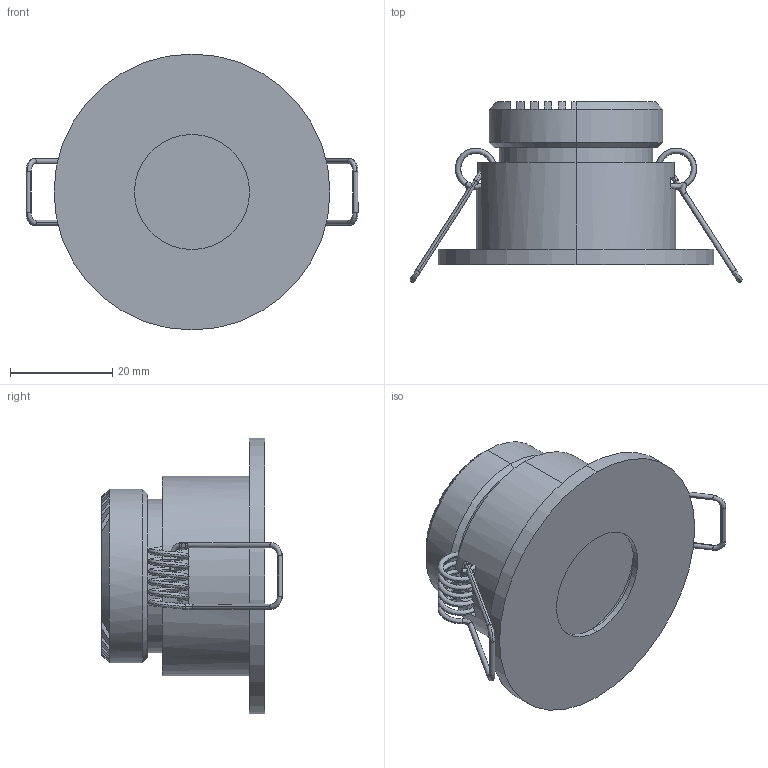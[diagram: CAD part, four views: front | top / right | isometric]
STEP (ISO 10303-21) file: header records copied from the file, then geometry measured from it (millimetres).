
FILE_DESCRIPTION(/* description */ (''),/* implementation_level */ '2;1');
FILE_NAME(/* name */ '44001.step',/* time_stamp */ '2024-12-04T09:50:27+01:00',/* author */ ('RenataManzini'),/* organization */ (''),/* preprocessor_version */ 'ST-DEVELOPER v20',/* originating_system */ 'AutoCAD Mechanical',/* authorisation */ '');
FILE_SCHEMA (('AUTOMOTIVE_DESIGN { 1 0 10303 214 3 1 1 }'));
Length unit declared in the file: millimetre
Products named in the file (6): Product; É¢ÈÈÆ÷; PC¸Ç; Ãæ¸Ç; ÖÐÈ¦; µ¯»É - ¸±±¾
Assembly tree (6 placements, depth 2):
  Product
    É¢ÈÈÆ÷
    PC¸Ç
    Ãæ¸Ç
    ÖÐÈ¦
    µ¯»É - ¸±±¾  x2
Bounding box: 64.96 x 35.36 x 54 mm (x, y, z)
Volume: 22324.2 mm3; surface area: 21035.7 mm2
Topology: 6 solids, 6 shells, 182 faces, 461 edges, 294 vertices
Faces by surface type: cylinder 76, plane 60, cone 16, torus 16, bspline 14
Entity records: 11916 total; most frequent: CARTESIAN_POINT 8143, ORIENTED_EDGE 808, DIRECTION 759, EDGE_CURVE 404, AXIS2_PLACEMENT_3D 311, VERTEX_POINT 258, EDGE_LOOP 174, FACE_OUTER_BOUND 161
